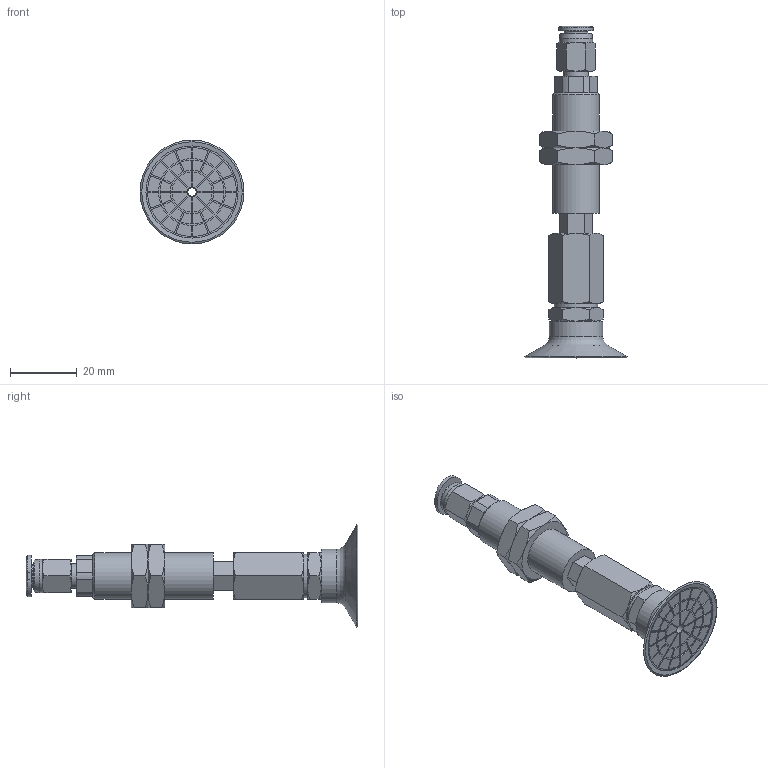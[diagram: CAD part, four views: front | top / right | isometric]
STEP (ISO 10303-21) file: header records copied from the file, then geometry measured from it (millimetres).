
FILE_DESCRIPTION(('STEP AP203'),'1');
FILE_NAME('-O.stp','2025-08-26T08:09:20',(' '),(' '),'Spatial InterOp 3D',' ',' ');
FILE_SCHEMA(('CONFIG_CONTROL_DESIGN'));
Length unit declared in the file: millimetre
Products named in the file (8): BNABPATH-30B-6-※-O; NAPATH-30-6--M; ADAPTER; Nut-25-S; NAPATH-30-6--F; BPAG-30B-※; TN-PA-30B-M6; PC-C_06-M5
Assembly tree (8 placements, depth 2):
  BNABPATH-30B-6-※-O
    NAPATH-30-6--M
    ADAPTER
    Nut-25-S  x2
    NAPATH-30-6--F
    BPAG-30B-※
    TN-PA-30B-M6
    PC-C_06-M5
Bounding box: 31.04 x 99.18 x 31.04 mm (x, y, z)
Volume: 15238.1 mm3; surface area: 12691 mm2
Topology: 7 solids, 10 shells, 409 faces, 944 edges, 601 vertices
Faces by surface type: plane 214, cylinder 104, cone 76, torus 8, bspline 4, revolution 3
Full cylindrical faces by diameter (mm): 2.5 x1, 3 x3, 4 x2, 4.134 x1, 4.917 x1, 5 x1, 6 x3, 7 x1, 7.4 x1, 8.2 x1, 10 x3, 12.917 x2, 13 x1, 14 x1, 16 x1, 27.5 x1
Entity records: 11533 total; most frequent: CARTESIAN_POINT 2532, DIRECTION 1812, ORIENTED_EDGE 1676, EDGE_CURVE 840, AXIS2_PLACEMENT_3D 684, VERTEX_POINT 564, EDGE_LOOP 494, LINE 441
